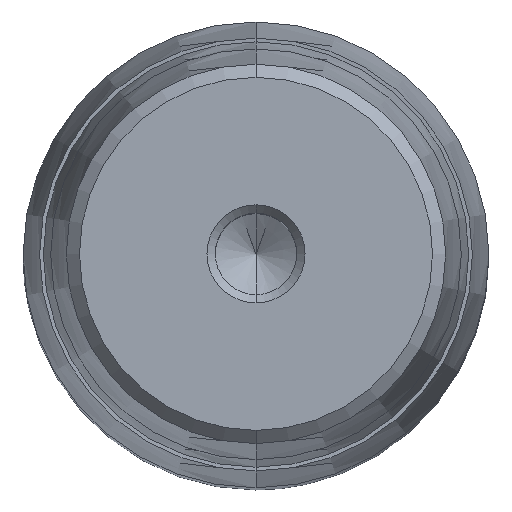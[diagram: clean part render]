
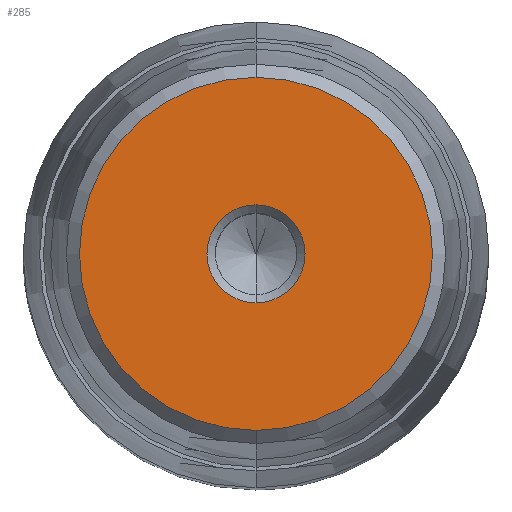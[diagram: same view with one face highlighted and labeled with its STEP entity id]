
A CAD part, top view. The second image highlights one B-rep face of the part: STEP entity #285.
In plain terms, the highlighted planar face has unit normal (0, 0, 1).
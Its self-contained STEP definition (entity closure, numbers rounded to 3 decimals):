
#164=CARTESIAN_POINT('Axis2P3D Location',(0.,0.,48.)) ;
#168=CARTESIAN_POINT('Vertex',(4.,0.,48.)) ;
#170=CARTESIAN_POINT('Vertex',(0.,-4.,48.)) ;
#173=CARTESIAN_POINT('Axis2P3D Location',(0.,0.,48.)) ;
#177=CARTESIAN_POINT('Vertex',(0.,4.,48.)) ;
#228=CARTESIAN_POINT('Axis2P3D Location',(0.,4.,48.)) ;
#233=CARTESIAN_POINT('Axis2P3D Location',(0.,0.,48.)) ;
#237=CARTESIAN_POINT('Vertex',(0.,14.4,48.)) ;
#239=CARTESIAN_POINT('Vertex',(14.4,0.,48.)) ;
#242=CARTESIAN_POINT('Axis2P3D Location',(0.,0.,48.)) ;
#246=CARTESIAN_POINT('Vertex',(-14.4,0.,48.)) ;
#249=CARTESIAN_POINT('Axis2P3D Location',(0.,0.,48.)) ;
#253=CARTESIAN_POINT('Vertex',(0.,-14.4,48.)) ;
#256=CARTESIAN_POINT('Axis2P3D Location',(0.,0.,48.)) ;
#267=CARTESIAN_POINT('Axis2P3D Location',(0.,0.,48.)) ;
#271=CARTESIAN_POINT('Vertex',(-4.,0.,48.)) ;
#274=CARTESIAN_POINT('Axis2P3D Location',(0.,0.,48.)) ;
#165=DIRECTION('Axis2P3D Direction',(0.,0.,1.)) ;
#174=DIRECTION('Axis2P3D Direction',(0.,0.,1.)) ;
#229=DIRECTION('Axis2P3D Direction',(-0.,0.,-1.)) ;
#230=DIRECTION('Axis2P3D XDirection',(0.,1.,0.)) ;
#234=DIRECTION('Axis2P3D Direction',(-0.,0.,-1.)) ;
#243=DIRECTION('Axis2P3D Direction',(-0.,0.,-1.)) ;
#250=DIRECTION('Axis2P3D Direction',(-0.,0.,-1.)) ;
#257=DIRECTION('Axis2P3D Direction',(-0.,0.,-1.)) ;
#268=DIRECTION('Axis2P3D Direction',(-0.,0.,-1.)) ;
#275=DIRECTION('Axis2P3D Direction',(-0.,0.,-1.)) ;
#166=AXIS2_PLACEMENT_3D('Circle Axis2P3D',#164,#165,$) ;
#175=AXIS2_PLACEMENT_3D('Circle Axis2P3D',#173,#174,$) ;
#231=AXIS2_PLACEMENT_3D('Plane Axis2P3D',#228,#229,#230) ;
#235=AXIS2_PLACEMENT_3D('Circle Axis2P3D',#233,#234,$) ;
#244=AXIS2_PLACEMENT_3D('Circle Axis2P3D',#242,#243,$) ;
#251=AXIS2_PLACEMENT_3D('Circle Axis2P3D',#249,#250,$) ;
#258=AXIS2_PLACEMENT_3D('Circle Axis2P3D',#256,#257,$) ;
#269=AXIS2_PLACEMENT_3D('Circle Axis2P3D',#267,#268,$) ;
#276=AXIS2_PLACEMENT_3D('Circle Axis2P3D',#274,#275,$) ;
#262=ORIENTED_EDGE('',*,*,#241,.F.) ;
#263=ORIENTED_EDGE('',*,*,#248,.F.) ;
#264=ORIENTED_EDGE('',*,*,#255,.F.) ;
#265=ORIENTED_EDGE('',*,*,#260,.F.) ;
#280=ORIENTED_EDGE('',*,*,#172,.T.) ;
#281=ORIENTED_EDGE('',*,*,#273,.T.) ;
#282=ORIENTED_EDGE('',*,*,#278,.T.) ;
#283=ORIENTED_EDGE('',*,*,#179,.T.) ;
#284=FACE_BOUND('',#279,.T.) ;
#285=ADVANCED_FACE('722-38x125x158',(#266,#284),#232,.F.) ;
#167=CIRCLE('generated circle',#166,4.) ;
#176=CIRCLE('generated circle',#175,4.) ;
#236=CIRCLE('generated circle',#235,14.4) ;
#245=CIRCLE('generated circle',#244,14.4) ;
#252=CIRCLE('generated circle',#251,14.4) ;
#259=CIRCLE('generated circle',#258,14.4) ;
#270=CIRCLE('generated circle',#269,4.) ;
#277=CIRCLE('generated circle',#276,4.) ;
#172=EDGE_CURVE('',#169,#171,#167,.F.) ;
#179=EDGE_CURVE('',#178,#169,#176,.F.) ;
#241=EDGE_CURVE('',#238,#240,#236,.T.) ;
#248=EDGE_CURVE('',#247,#238,#245,.T.) ;
#255=EDGE_CURVE('',#254,#247,#252,.T.) ;
#260=EDGE_CURVE('',#240,#254,#259,.T.) ;
#273=EDGE_CURVE('',#171,#272,#270,.T.) ;
#278=EDGE_CURVE('',#272,#178,#277,.T.) ;
#261=EDGE_LOOP('',(#262,#263,#264,#265)) ;
#279=EDGE_LOOP('',(#280,#281,#282,#283)) ;
#266=FACE_OUTER_BOUND('',#261,.T.) ;
#232=PLANE('Plane',#231) ;
#169=VERTEX_POINT('',#168) ;
#171=VERTEX_POINT('',#170) ;
#178=VERTEX_POINT('',#177) ;
#238=VERTEX_POINT('',#237) ;
#240=VERTEX_POINT('',#239) ;
#247=VERTEX_POINT('',#246) ;
#254=VERTEX_POINT('',#253) ;
#272=VERTEX_POINT('',#271) ;
